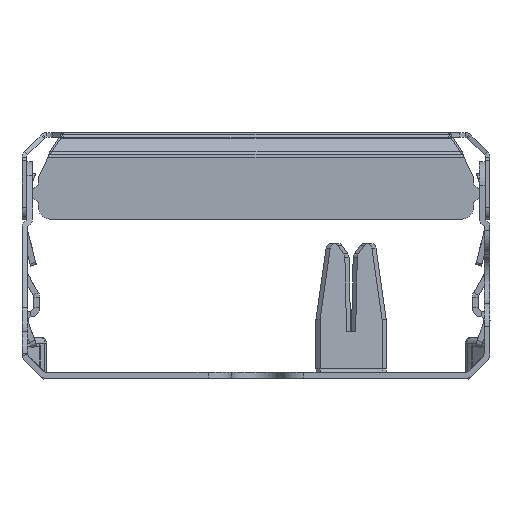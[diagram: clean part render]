
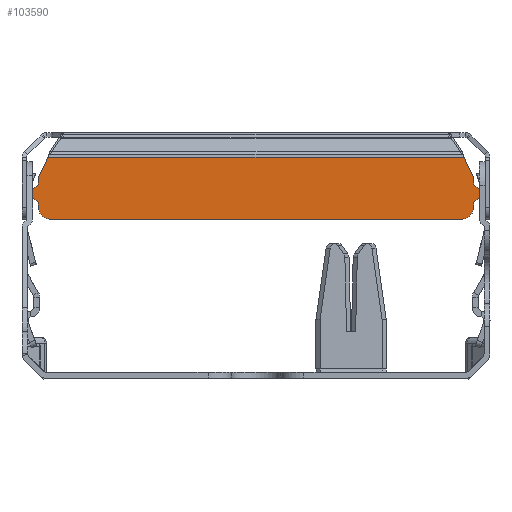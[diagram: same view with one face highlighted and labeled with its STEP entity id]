
A CAD part, front view. The second image highlights one B-rep face of the part: STEP entity #103590.
In plain terms, the highlighted planar face has unit normal (0, -1, 0) as drawn and (-1, 0, 0) by its records, which use the part's own axes.
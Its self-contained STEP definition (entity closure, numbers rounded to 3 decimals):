
#70730=CARTESIAN_POINT('',(-9.034,-0.934,
4.5));
#70740=VERTEX_POINT('',#70730);
#70770=CARTESIAN_POINT('',(-9.034,-0.934,0.));
#70780=DIRECTION('',(0.,0.,1.));
#70790=VECTOR('',#70780,1.);
#70800=LINE('',#70770,#70790);
#70810=CARTESIAN_POINT('',(-9.034,-0.934,
5.1));
#70820=VERTEX_POINT('',#70810);
#70830=EDGE_CURVE('',#70740,#70820,#70800,.T.);
#98870=CARTESIAN_POINT('',(-9.034,0.377,
1.724));
#98880=VERTEX_POINT('',#98870);
#99500=CARTESIAN_POINT('',(-9.034,35.954,
1.724));
#99510=VERTEX_POINT('',#99500);
#99540=CARTESIAN_POINT('',(-9.034,0.377,
1.724));
#99550=DIRECTION('',(0.,1.,0.));
#99560=VECTOR('',#99550,1.);
#99570=LINE('',#99540,#99560);
#99580=EDGE_CURVE('',#98880,#99510,#99570,.T.);
#101020=CARTESIAN_POINT('',(-9.034,-1.234,
4.8));
#101030=DIRECTION('',(0.,0.707,0.707));
#101040=VECTOR('',#101030,1.);
#101050=LINE('',#101020,#101040);
#101060=CARTESIAN_POINT('',(-9.034,-0.434,
5.6));
#101070=VERTEX_POINT('',#101060);
#101080=EDGE_CURVE('',#70820,#101070,#101050,.T.);
#102100=CARTESIAN_POINT('',(-9.034,-0.434,
4.));
#102110=VERTEX_POINT('',#102100);
#102140=CARTESIAN_POINT('',(-9.034,-0.434,
4.));
#102150=DIRECTION('',(0.,-0.707,0.707));
#102160=VECTOR('',#102150,1.);
#102170=LINE('',#102140,#102160);
#102180=EDGE_CURVE('',#102110,#70740,#102170,.T.);
#102480=CARTESIAN_POINT('',(-9.034,-0.434,
3.464));
#102490=VERTEX_POINT('',#102480);
#102520=CARTESIAN_POINT('',(-9.034,-0.434,
4.));
#102530=DIRECTION('',(0.,0.,-1.));
#102540=VECTOR('',#102530,1.);
#102550=LINE('',#102520,#102540);
#102560=EDGE_CURVE('',#102110,#102490,#102550,.T.);
#102610=CARTESIAN_POINT('',(-9.034,18.166,
4.362));
#102620=DIRECTION('',(-1.,0.,0.));
#102630=DIRECTION('',(0.,1.,0.));
#102640=AXIS2_PLACEMENT_3D('',#102610,#102620,#102630);
#102650=PLANE('',#102640);
#102660=CARTESIAN_POINT('',(-9.034,0.377,
1.724));
#102670=DIRECTION('',(0.,-0.423,
0.906));
#102680=VECTOR('',#102670,1.);
#102690=LINE('',#102660,#102680);
#102700=EDGE_CURVE('',#98880,#102490,#102690,.T.);
#102710=ORIENTED_EDGE('',*,*,#102700,.T.);
#102720=ORIENTED_EDGE('',*,*,#99580,.F.);
#102730=CARTESIAN_POINT('',(-9.034,36.766,
3.464));
#102740=DIRECTION('',(0.,-0.423,-0.906));
#102750=VECTOR('',#102740,1.);
#102760=LINE('',#102730,#102750);
#102770=CARTESIAN_POINT('',(-9.034,36.766,
3.464));
#102780=VERTEX_POINT('',#102770);
#102790=EDGE_CURVE('',#102780,#99510,#102760,.T.);
#102800=ORIENTED_EDGE('',*,*,#102790,.T.);
#102810=CARTESIAN_POINT('',(-9.034,36.766,3.464
));
#102820=DIRECTION('',(0.,0.,1.));
#102830=VECTOR('',#102820,1.);
#102840=LINE('',#102810,#102830);
#102850=CARTESIAN_POINT('',(-9.034,36.766,
4.));
#102860=VERTEX_POINT('',#102850);
#102870=EDGE_CURVE('',#102780,#102860,#102840,.T.);
#102880=ORIENTED_EDGE('',*,*,#102870,.F.);
#102890=CARTESIAN_POINT('',(-9.034,37.566,
4.8));
#102900=DIRECTION('',(0.,-0.707,-0.707));
#102910=VECTOR('',#102900,1.);
#102920=LINE('',#102890,#102910);
#102930=CARTESIAN_POINT('',(-9.034,37.266,
4.5));
#102940=VERTEX_POINT('',#102930);
#102950=EDGE_CURVE('',#102940,#102860,#102920,.T.);
#102960=ORIENTED_EDGE('',*,*,#102950,.T.);
#102970=CARTESIAN_POINT('',(-9.034,37.266,0.));
#102980=DIRECTION('',(0.,0.,1.));
#102990=VECTOR('',#102980,1.);
#103000=LINE('',#102970,#102990);
#103010=CARTESIAN_POINT('',(-9.034,37.266,
5.1));
#103020=VERTEX_POINT('',#103010);
#103030=EDGE_CURVE('',#102940,#103020,#103000,.T.);
#103040=ORIENTED_EDGE('',*,*,#103030,.F.);
#103050=CARTESIAN_POINT('',(-9.034,36.766,5.6));
#103060=DIRECTION('',(0.,0.707,-0.707));
#103070=VECTOR('',#103060,1.);
#103080=LINE('',#103050,#103070);
#103090=CARTESIAN_POINT('',(-9.034,36.766,
5.6));
#103100=VERTEX_POINT('',#103090);
#103110=EDGE_CURVE('',#103100,#103020,#103080,.T.);
#103120=ORIENTED_EDGE('',*,*,#103110,.T.);
#103130=CARTESIAN_POINT('',(-9.034,36.766,
5.6));
#103140=DIRECTION('',(0.,0.,1.));
#103150=VECTOR('',#103140,1.);
#103160=LINE('',#103130,#103150);
#103170=CARTESIAN_POINT('',(-9.034,36.766,
6.));
#103180=VERTEX_POINT('',#103170);
#103190=EDGE_CURVE('',#103100,#103180,#103160,.T.);
#103200=ORIENTED_EDGE('',*,*,#103190,.F.);
#103210=CARTESIAN_POINT('',(-9.034,35.766,
6.));
#103220=DIRECTION('',(-1.,0.,0.));
#103230=DIRECTION('',(0.,0.,1.));
#103240=AXIS2_PLACEMENT_3D('',#103210,#103220,#103230);
#103250=CIRCLE('',#103240,1.);
#103260=CARTESIAN_POINT('',(-9.034,35.766,
7.));
#103270=VERTEX_POINT('',#103260);
#103280=EDGE_CURVE('',#103270,#103180,#103250,.T.);
#103290=ORIENTED_EDGE('',*,*,#103280,.T.);
#103300=CARTESIAN_POINT('',(-9.034,0.566,
7.));
#103310=DIRECTION('',(0.,1.,0.));
#103320=VECTOR('',#103310,1.);
#103330=LINE('',#103300,#103320);
#103340=CARTESIAN_POINT('',(-9.034,0.566,
7.));
#103350=VERTEX_POINT('',#103340);
#103360=EDGE_CURVE('',#103350,#103270,#103330,.T.);
#103370=ORIENTED_EDGE('',*,*,#103360,.T.);
#103380=CARTESIAN_POINT('',(-9.034,0.566,6.
));
#103390=DIRECTION('',(-1.,0.,0.));
#103400=DIRECTION('',(0.,-1.,0.));
#103410=AXIS2_PLACEMENT_3D('',#103380,#103390,#103400);
#103420=CIRCLE('',#103410,1.);
#103430=CARTESIAN_POINT('',(-9.034,-0.434,
6.));
#103440=VERTEX_POINT('',#103430);
#103450=EDGE_CURVE('',#103440,#103350,#103420,.T.);
#103460=ORIENTED_EDGE('',*,*,#103450,.T.);
#103470=CARTESIAN_POINT('',(-9.034,-0.434,
6.));
#103480=DIRECTION('',(0.,0.,-1.));
#103490=VECTOR('',#103480,1.);
#103500=LINE('',#103470,#103490);
#103510=EDGE_CURVE('',#103440,#101070,#103500,.T.);
#103520=ORIENTED_EDGE('',*,*,#103510,.F.);
#103530=ORIENTED_EDGE('',*,*,#101080,.T.);
#103540=ORIENTED_EDGE('',*,*,#70830,.T.);
#103550=ORIENTED_EDGE('',*,*,#102180,.T.);
#103560=ORIENTED_EDGE('',*,*,#102560,.F.);
#103570=EDGE_LOOP('',(#103560,#103550,#103540,#103530,#103520,#103460,
#103370,#103290,#103200,#103120,#103040,#102960,#102880,#102800,#102720,
#102710));
#103580=FACE_OUTER_BOUND('',#103570,.T.);
#103590=ADVANCED_FACE('',(#103580),#102650,.T.);
